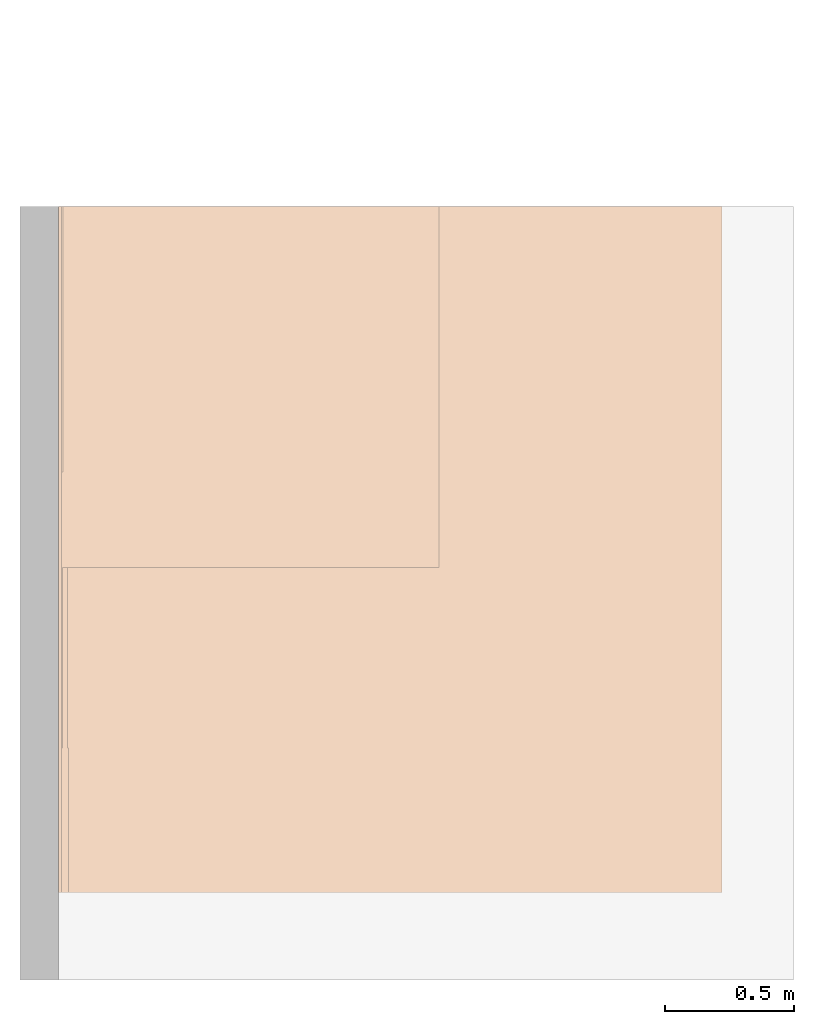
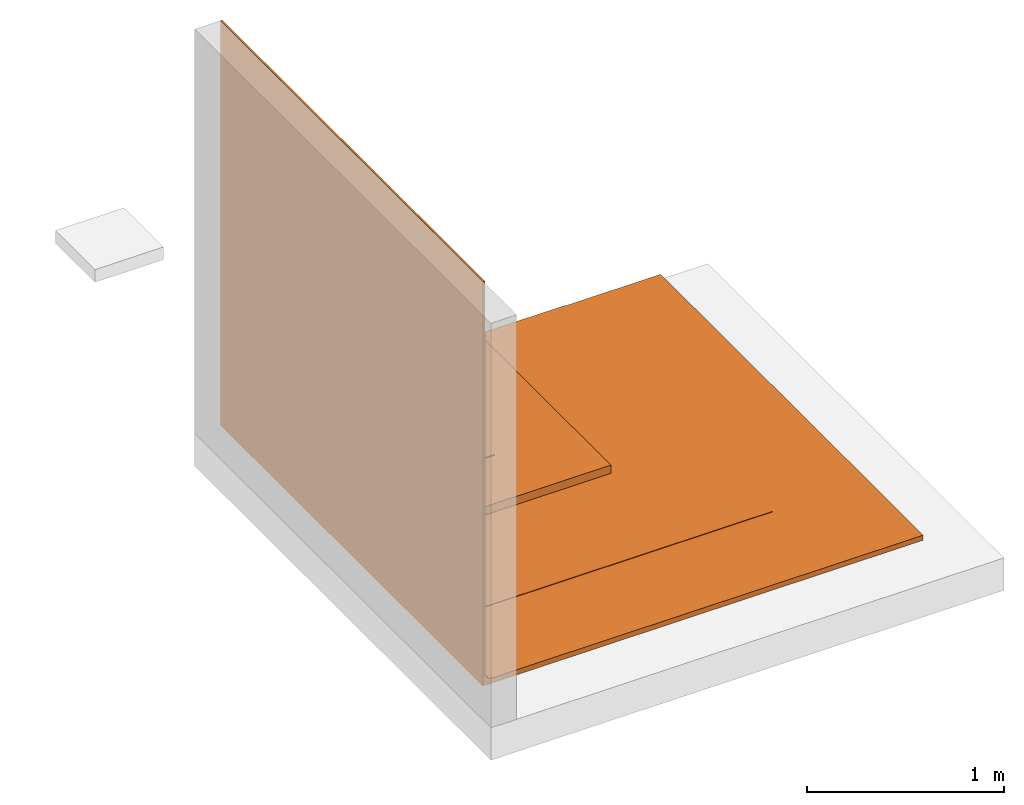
# One storey, part 2 of 2: 1 proxy.
"""IFC2X3 building model written with IfcOpenShell, lengths in metres."""

from ifc_helpers import new_model, entity, si_unit, converted_unit, derived_unit, direction, frame, frame_2d, origin, origin_2d_with_axis, place, context, subcontext, project, spatial, polyline, circle_curve, parameter, trimmed, segment, composite_curve, rectangle, outline, extrude, source, transform, mapped, material, material_list, type_object, type_shapes, element, save


model = new_model("IFC2X3")

# Units and contexts
model_context = context("Model", 3, precision=1e-05, world=origin(), true_north=direction((6.123031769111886e-17, 1.0)))
body_context = subcontext(model_context, "Body", "Model", "MODEL_VIEW")
ifc_project = project(units=[si_unit("LENGTHUNIT", "METRE"), si_unit("AREAUNIT", "SQUARE_METRE"), si_unit("VOLUMEUNIT", "CUBIC_METRE"), converted_unit("PLANEANGLEUNIT", "DEGREE", entity("IfcRatioMeasure", 0.017453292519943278), si_unit("PLANEANGLEUNIT", "RADIAN"), dimensions=[0, 0, 0, 0, 0, 0, 0]), si_unit("MASSUNIT", "GRAM", prefix="KILO"), derived_unit("MASSDENSITYUNIT", [(si_unit("MASSUNIT", "GRAM", prefix="KILO"), 1), (si_unit("LENGTHUNIT", "METRE"), -3)]), derived_unit("IONCONCENTRATIONUNIT", [(si_unit("MASSUNIT", "GRAM", prefix="KILO"), 1), (si_unit("LENGTHUNIT", "METRE"), -3)]), derived_unit("MOMENTOFINERTIAUNIT", [(si_unit("LENGTHUNIT", "METRE"), 4)]), si_unit("TIMEUNIT", "SECOND"), si_unit("FREQUENCYUNIT", "HERTZ"), si_unit("THERMODYNAMICTEMPERATUREUNIT", "DEGREE_CELSIUS"), derived_unit("THERMALTRANSMITTANCEUNIT", [(si_unit("MASSUNIT", "GRAM", prefix="KILO"), 1), (si_unit("THERMODYNAMICTEMPERATUREUNIT", "KELVIN"), -1), (si_unit("TIMEUNIT", "SECOND"), -3)]), derived_unit("THERMALCONDUCTANCEUNIT", [(si_unit("MASSUNIT", "GRAM", prefix="KILO"), 1), (si_unit("THERMODYNAMICTEMPERATUREUNIT", "KELVIN"), -1), (si_unit("TIMEUNIT", "SECOND"), -3), (si_unit("LENGTHUNIT", "METRE"), 1)]), derived_unit("VOLUMETRICFLOWRATEUNIT", [(si_unit("LENGTHUNIT", "METRE"), 3), (si_unit("TIMEUNIT", "SECOND"), -1)]), derived_unit("MASSFLOWRATEUNIT", [(si_unit("MASSUNIT", "GRAM", prefix="KILO"), 1), (si_unit("TIMEUNIT", "SECOND"), -1)]), derived_unit("ROTATIONALFREQUENCYUNIT", [(si_unit("TIMEUNIT", "SECOND"), -1)]), si_unit("ELECTRICCURRENTUNIT", "AMPERE"), si_unit("ELECTRICVOLTAGEUNIT", "VOLT"), si_unit("POWERUNIT", "WATT"), si_unit("FORCEUNIT", "NEWTON", prefix="KILO"), si_unit("ILLUMINANCEUNIT", "LUX"), si_unit("LUMINOUSFLUXUNIT", "LUMEN"), si_unit("LUMINOUSINTENSITYUNIT", "CANDELA"), derived_unit("USERDEFINED", [(si_unit("MASSUNIT", "GRAM", prefix="KILO"), -1), (si_unit("LENGTHUNIT", "METRE"), -2), (si_unit("TIMEUNIT", "SECOND"), 3), (si_unit("LUMINOUSFLUXUNIT", "LUMEN"), 1)]), derived_unit("USERDEFINED", [(si_unit("MASSUNIT", "GRAM", prefix="KILO"), 1), (si_unit("TIMEUNIT", "SECOND"), -3), (si_unit("LENGTHUNIT", "METRE"), 3), (si_unit("ELECTRICCURRENTUNIT", "AMPERE"), -2)]), derived_unit("SOUNDPOWERUNIT", [(si_unit("MASSUNIT", "GRAM", prefix="KILO"), 1), (si_unit("TIMEUNIT", "SECOND"), -3), (si_unit("LENGTHUNIT", "METRE"), 2)]), derived_unit("SOUNDPRESSUREUNIT", [(si_unit("MASSUNIT", "GRAM", prefix="KILO"), 1), (si_unit("LENGTHUNIT", "METRE"), -1), (si_unit("TIMEUNIT", "SECOND"), -2)]), derived_unit("LINEARVELOCITYUNIT", [(si_unit("LENGTHUNIT", "METRE"), 1), (si_unit("TIMEUNIT", "SECOND"), -1)]), si_unit("PRESSUREUNIT", "PASCAL"), derived_unit("USERDEFINED", [(si_unit("MASSUNIT", "GRAM", prefix="KILO"), 1), (si_unit("LENGTHUNIT", "METRE"), -2), (si_unit("TIMEUNIT", "SECOND"), -2)]), derived_unit("LINEARFORCEUNIT", [(si_unit("MASSUNIT", "GRAM", prefix="KILO"), 1), (si_unit("TIMEUNIT", "SECOND"), -2)]), derived_unit("PLANARFORCEUNIT", [(si_unit("MASSUNIT", "GRAM", prefix="KILO"), 1), (si_unit("LENGTHUNIT", "METRE"), -1), (si_unit("TIMEUNIT", "SECOND"), -2)]), derived_unit("SPECIFICHEATCAPACITYUNIT", [(si_unit("THERMODYNAMICTEMPERATUREUNIT", "KELVIN"), -1), (si_unit("LENGTHUNIT", "METRE"), 2), (si_unit("TIMEUNIT", "SECOND"), -2)]), derived_unit("HEATINGVALUEUNIT", [(si_unit("LENGTHUNIT", "METRE"), 2), (si_unit("TIMEUNIT", "SECOND"), -2)]), derived_unit("VAPORPERMEABILITYUNIT", [(si_unit("LENGTHUNIT", "METRE"), -1), (si_unit("TIMEUNIT", "SECOND"), 1)]), derived_unit("DYNAMICVISCOSITYUNIT", [(si_unit("MASSUNIT", "GRAM", prefix="KILO"), 1), (si_unit("TIMEUNIT", "SECOND"), -1), (si_unit("LENGTHUNIT", "METRE"), -1)]), derived_unit("THERMALEXPANSIONCOEFFICIENTUNIT", [(si_unit("THERMODYNAMICTEMPERATUREUNIT", "KELVIN"), -1)]), derived_unit("MODULUSOFELASTICITYUNIT", [(si_unit("MASSUNIT", "GRAM", prefix="KILO"), 1), (si_unit("LENGTHUNIT", "METRE"), -1), (si_unit("TIMEUNIT", "SECOND"), -2)]), derived_unit("ISOTHERMALMOISTURECAPACITYUNIT", [(si_unit("LENGTHUNIT", "METRE"), 3), (si_unit("MASSUNIT", "GRAM", prefix="KILO"), -1)]), derived_unit("MOISTUREDIFFUSIVITYUNIT", [(si_unit("TIMEUNIT", "SECOND"), -1), (si_unit("LENGTHUNIT", "METRE"), 2)])], contexts=[model_context])

# Site, building, storey
site_placement = place(None, origin())
site = spatial("IfcSite", under=ifc_project, at=site_placement, Name="Default", CompositionType="ELEMENT")
building_placement = place(site_placement, origin())
building = spatial("IfcBuilding", under=site, at=building_placement, CompositionType="ELEMENT")
storey_placement = place(building_placement, frame((0.0, 0.0, -0.0025237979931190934)))
storey = spatial("IfcBuildingStorey", under=building, at=storey_placement, Name="ARQ Térreo", CompositionType="ELEMENT", Elevation=-0.0025237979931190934)

# Proxy
ifc_material_1 = material(Name="#argamassa")
ifc_material_2 = material(Name="#Emulsão Confort Plus")
ifc_material_3 = material(Name="#proteção mecânica")
ifc_material_4 = material(Name="#selante")
ifc_material_5 = material(Name="#revestimento")
ifc_material_list = material_list([ifc_material_1, ifc_material_2, ifc_material_3, ifc_material_4, ifc_material_5])
building_element_proxy_type = type_object("IfcBuildingElementProxyType", Name="IMPER:IMPER", PredefinedType="NOTDEFINED", material=ifc_material_list)
shared_shape = source(origin(), body_context, "Body", "SweptSolid", [
    extrude(rectangle(XDim=2.66, YDim=0.011011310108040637, at=origin_2d_with_axis()), frame((-0.346464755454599, -1.1841299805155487, -0.0025237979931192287), z_axis=(0.0, 0.0, 1.0), x_axis=(0.0, -1.0, 0.0)), (0.0, 0.0, 1.0), 2.4999999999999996),
    extrude(outline(composite_curve([segment(polyline([(-0.006777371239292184, -1.5321376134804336), (0.024248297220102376, -1.5321376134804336)]), True, "CONTINUOUS"), segment(polyline([(0.024248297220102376, -1.5321376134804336), (0.024248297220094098, 1.0306813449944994)]), True, "CONTINUOUS"), segment(polyline([(0.024248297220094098, 1.0306813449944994), (-0.034941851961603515, 1.0306813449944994)]), True, "CONTINUOUS"), segment(trimmed(circle_curve(frame_2d((-0.03575170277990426, 1.0016926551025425), x_axis=(0.0, -1.0)), 0.028999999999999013), [parameter(92.4108521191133)], [parameter(178.39975630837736)], True, "PARAMETER"), False, "CONTINUOUS"), segment(polyline([(-0.006777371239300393, 1.0029125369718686), (-0.006777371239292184, -1.5321376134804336)]), True, "CONTINUOUS")], self_intersect=False)), frame((0.6897222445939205, -2.514129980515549, 0.021724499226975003), z_axis=(0.0, 1.0, 0.0), x_axis=(0.0, 0.0, -1.0)), (0.0, 0.0, 1.0), 2.660000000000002),
    extrude(outline(composite_curve([segment(trimmed(circle_curve(frame_2d((-0.4797116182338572, -0.007677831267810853), x_axis=(1.0, 0.0)), 0.028999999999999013), [parameter(92.41085211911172)], [parameter(178.39975630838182)], True, "PARAMETER"), True, "CONTINUOUS"), segment(polyline([(-0.5087003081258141, -0.006867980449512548), (-0.5087003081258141, -0.03270349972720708)]), True, "CONTINUOUS"), segment(polyline([(-0.5087003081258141, -0.03270349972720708), (-0.5057003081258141, -0.03270349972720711)]), True, "CONTINUOUS"), segment(polyline([(-0.5057003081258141, -0.03270349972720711), (-0.5057003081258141, -0.00691102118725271)]), True, "CONTINUOUS"), segment(trimmed(circle_curve(frame_2d((-0.4797116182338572, -0.007677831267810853), x_axis=(1.0, 0.0)), 0.025999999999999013), [parameter(92.54616529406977)], [parameter(178.30994795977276)], True, "PARAMETER"), False, "CONTINUOUS"), segment(polyline([(-0.4808666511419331, 0.01829650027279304), (1.495299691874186, 0.01829650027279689)]), True, "CONTINUOUS"), segment(polyline([(1.495299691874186, 0.01829650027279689), (1.495299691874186, 0.021296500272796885)]), True, "CONTINUOUS"), segment(polyline([(1.495299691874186, 0.021296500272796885), (-0.4809315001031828, 0.021296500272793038)]), True, "CONTINUOUS")], self_intersect=False)), frame((0.16774120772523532, -1.9541299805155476, 0.04979837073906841), z_axis=(0.0, 1.0, 0.0), x_axis=(1.0, 0.0, 0.0)), (0.0, 0.0, 1.0), 2.1000000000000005),
    extrude(outline(composite_curve([segment(trimmed(circle_curve(frame_2d((-0.5633780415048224, -0.0005328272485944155), x_axis=(1.0, 0.0)), 0.025999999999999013), [parameter(92.54616529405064)], [parameter(178.30994795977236)], True, "PARAMETER"), True, "CONTINUOUS"), segment(polyline([(-0.5893667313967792, 0.0002339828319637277), (-0.5893667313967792, -0.025558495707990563)]), True, "CONTINUOUS"), segment(polyline([(-0.5893667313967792, -0.025558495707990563), (0.8716332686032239, -0.025558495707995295)]), True, "CONTINUOUS"), segment(polyline([(0.8716332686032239, -0.025558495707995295), (0.8716332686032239, 0.025441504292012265)]), True, "CONTINUOUS"), segment(polyline([(0.8716332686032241, 0.025441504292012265), (-0.5645330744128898, 0.02544150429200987)]), True, "CONTINUOUS")], self_intersect=False)), frame((0.25140763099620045, -1.254129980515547, 0.05694337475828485), z_axis=(0.0, 1.0, 0.0), x_axis=(1.0, 0.0, 0.0)), (0.0, 0.0, 1.0), 1.3999999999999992),
    extrude(rectangle(XDim=0.004999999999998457, YDim=1.4000000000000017, at=origin_2d_with_axis()), frame((-0.3384591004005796, -0.5541299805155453, 0.08250187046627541), z_axis=(0.0, 0.0, 1.0), x_axis=(-1.0, 0.0, 0.0)), (0.0, 0.0, 1.0), 0.004999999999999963),
    extrude(outline(polyline([(-0.6646564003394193, -0.0329849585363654), (0.3348282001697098, -0.0329849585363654), (0.3348282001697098, 0.06096991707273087), (0.3298282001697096, 0.06096991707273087), (0.3298282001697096, -0.027984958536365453), (-0.6646564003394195, -0.027984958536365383), (-0.6646564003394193, -0.0329849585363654)])), frame((-0.006130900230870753, -0.8840129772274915, 0.11548682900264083), z_axis=(0.0, 1.0, 0.0), x_axis=(-1.0, 0.0, 0.0)), (0.0, 0.0, 1.0), 1.0298829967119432),
])
type_shapes(building_element_proxy_type, [shared_shape])
proxy_placement = place(storey_placement, frame((0.0, 0.0, 0.0025237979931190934)))
element("IfcBuildingElementProxy", 1, at=proxy_placement, inside=storey, type_object=building_element_proxy_type, material=ifc_material_list, Name="IMPER:IMPER:IMPER : IMPER:IMPER", ObjectType="IMPER:IMPER:IMPER : IMPER:IMPER", context=body_context, shape_type="MappedRepresentation", body=[
    mapped(shared_shape, transform((0.0, 0.0, 0.0), scale=1.0)),
])

save(model, "model.ifc")
